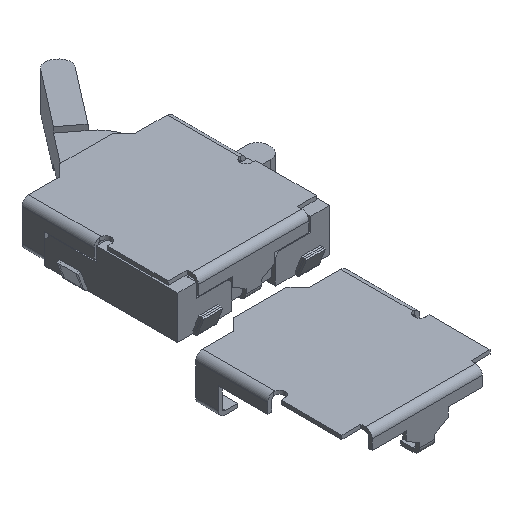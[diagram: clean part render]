
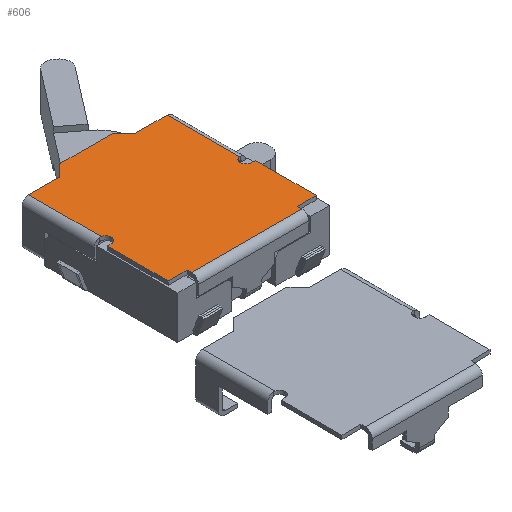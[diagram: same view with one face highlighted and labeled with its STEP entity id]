
A CAD part, isometric view. The second image highlights one B-rep face of the part: STEP entity #606.
In plain terms, the highlighted planar face has unit normal (0, 0, 1).
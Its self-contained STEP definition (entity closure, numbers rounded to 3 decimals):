
#606 = ADVANCED_FACE( '', ( #1187 ), #1188, .F. );
#1187 = FACE_OUTER_BOUND( '', #1771, .T. );
#1188 = PLANE( '', #1772 );
#1771 = EDGE_LOOP( '', ( #3397, #3398, #3399, #3400, #3401, #3402, #3403, #3404, #3405, #3406, #3407, #3408, #3409, #3410, #3411, #3412, #3413, #3414 ) );
#1772 = AXIS2_PLACEMENT_3D( '', #3415, #3416, #3417 );
#3397 = ORIENTED_EDGE( '', *, *, #3696, .F. );
#3398 = ORIENTED_EDGE( '', *, *, #3938, .T. );
#3399 = ORIENTED_EDGE( '', *, *, #3993, .F. );
#3400 = ORIENTED_EDGE( '', *, *, #4024, .F. );
#3401 = ORIENTED_EDGE( '', *, *, #3575, .F. );
#3402 = ORIENTED_EDGE( '', *, *, #4059, .T. );
#3403 = ORIENTED_EDGE( '', *, *, #3886, .T. );
#3404 = ORIENTED_EDGE( '', *, *, #3876, .F. );
#3405 = ORIENTED_EDGE( '', *, *, #3843, .T. );
#3406 = ORIENTED_EDGE( '', *, *, #3979, .T. );
#3407 = ORIENTED_EDGE( '', *, *, #4093, .T. );
#3408 = ORIENTED_EDGE( '', *, *, #3924, .F. );
#3409 = ORIENTED_EDGE( '', *, *, #4089, .F. );
#3410 = ORIENTED_EDGE( '', *, *, #4045, .T. );
#3411 = ORIENTED_EDGE( '', *, *, #4063, .T. );
#3412 = ORIENTED_EDGE( '', *, *, #3965, .T. );
#3413 = ORIENTED_EDGE( '', *, *, #3523, .F. );
#3414 = ORIENTED_EDGE( '', *, *, #3743, .F. );
#3415 = CARTESIAN_POINT( '', ( 5.1, -6.973, 0. ) );
#3416 = DIRECTION( '', ( 0., 0., -1. ) );
#3417 = DIRECTION( '', ( -1., 0., 0. ) );
#3523 = EDGE_CURVE( '', #4222, #4223, #4224, .T. );
#3575 = EDGE_CURVE( '', #4310, #4311, #4312, .T. );
#3696 = EDGE_CURVE( '', #4508, #4510, #4511, .T. );
#3743 = EDGE_CURVE( '', #4510, #4222, #4584, .T. );
#3843 = EDGE_CURVE( '', #4735, #4733, #4736, .T. );
#3876 = EDGE_CURVE( '', #4735, #4781, #4783, .F. );
#3886 = EDGE_CURVE( '', #4797, #4781, #4798, .T. );
#3924 = EDGE_CURVE( '', #4853, #4854, #4855, .T. );
#3938 = EDGE_CURVE( '', #4508, #4871, #4873, .F. );
#3965 = EDGE_CURVE( '', #4906, #4223, #4907, .T. );
#3979 = EDGE_CURVE( '', #4733, #4925, #4926, .T. );
#3993 = EDGE_CURVE( '', #4941, #4871, #4942, .T. );
#4024 = EDGE_CURVE( '', #4311, #4941, #4980, .T. );
#4045 = EDGE_CURVE( '', #5005, #5003, #5006, .F. );
#4059 = EDGE_CURVE( '', #4310, #4797, #5022, .T. );
#4063 = EDGE_CURVE( '', #5003, #4906, #5026, .T. );
#4089 = EDGE_CURVE( '', #5005, #4853, #5053, .T. );
#4093 = EDGE_CURVE( '', #4925, #4854, #5057, .T. );
#4222 = VERTEX_POINT( '', #5237 );
#4223 = VERTEX_POINT( '', #5238 );
#4224 = LINE( '', #5239, #5240 );
#4310 = VERTEX_POINT( '', #5362 );
#4311 = VERTEX_POINT( '', #5363 );
#4312 = LINE( '', #5364, #5365 );
#4508 = VERTEX_POINT( '', #5647 );
#4510 = VERTEX_POINT( '', #5652 );
#4511 = CIRCLE( '', #5653, 0.15 );
#4584 = LINE( '', #5761, #5762 );
#4733 = VERTEX_POINT( '', #5981 );
#4735 = VERTEX_POINT( '', #5984 );
#4736 = CIRCLE( '', #5985, 0.15 );
#4781 = VERTEX_POINT( '', #6052 );
#4783 = LINE( '', #6054, #6055 );
#4797 = VERTEX_POINT( '', #6076 );
#4798 = LINE( '', #6077, #6078 );
#4853 = VERTEX_POINT( '', #6157 );
#4854 = VERTEX_POINT( '', #6158 );
#4855 = LINE( '', #6159, #6160 );
#4871 = VERTEX_POINT( '', #6184 );
#4873 = LINE( '', #6186, #6187 );
#4906 = VERTEX_POINT( '', #6235 );
#4907 = LINE( '', #6236, #6237 );
#4925 = VERTEX_POINT( '', #6261 );
#4926 = LINE( '', #6262, #6263 );
#4941 = VERTEX_POINT( '', #6285 );
#4942 = LINE( '', #6286, #6287 );
#4980 = LINE( '', #6343, #6344 );
#5003 = VERTEX_POINT( '', #6377 );
#5005 = VERTEX_POINT( '', #6379 );
#5006 = LINE( '', #6380, #6381 );
#5022 = LINE( '', #6403, #6404 );
#5026 = LINE( '', #6408, #6409 );
#5053 = LINE( '', #6445, #6446 );
#5057 = LINE( '', #6450, #6451 );
#5237 = CARTESIAN_POINT( '', ( 1.95, -5.073, 0. ) );
#5238 = CARTESIAN_POINT( '', ( 1.95, -6.673, 0. ) );
#5239 = CARTESIAN_POINT( '', ( 1.95, -6.973, 0. ) );
#5240 = VECTOR( '', #6524, 1000. );
#5362 = CARTESIAN_POINT( '', ( -0.7, -2.573, 0. ) );
#5363 = CARTESIAN_POINT( '', ( 0.7, -2.573, 0. ) );
#5364 = CARTESIAN_POINT( '', ( 0., -2.573, 0. ) );
#5365 = VECTOR( '', #6573, 1000. );
#5647 = CARTESIAN_POINT( '', ( 1.82, -4.776, 0. ) );
#5652 = CARTESIAN_POINT( '', ( 1.85, -5.073, 0. ) );
#5653 = AXIS2_PLACEMENT_3D( '', #6690, #6691, #6692 );
#5761 = CARTESIAN_POINT( '', ( 1.85, -5.073, 0. ) );
#5762 = VECTOR( '', #6740, 1000. );
#5981 = CARTESIAN_POINT( '', ( -1.85, -5.073, 0. ) );
#5984 = CARTESIAN_POINT( '', ( -1.82, -4.776, 0. ) );
#5985 = AXIS2_PLACEMENT_3D( '', #6830, #6831, #6832 );
#6052 = CARTESIAN_POINT( '', ( -1.82, -2.873, 0. ) );
#6054 = CARTESIAN_POINT( '', ( -1.82, -6.973, 0. ) );
#6055 = VECTOR( '', #6861, 1000. );
#6076 = CARTESIAN_POINT( '', ( -1., -2.873, 0. ) );
#6077 = CARTESIAN_POINT( '', ( -1., -2.873, 0. ) );
#6078 = VECTOR( '', #6869, 1000. );
#6157 = CARTESIAN_POINT( '', ( -1.45, -6.673, 0. ) );
#6158 = CARTESIAN_POINT( '', ( -1.95, -6.673, 0. ) );
#6159 = CARTESIAN_POINT( '', ( -1.45, -6.673, 0. ) );
#6160 = VECTOR( '', #6906, 1000. );
#6184 = CARTESIAN_POINT( '', ( 1.82, -2.873, 0. ) );
#6186 = CARTESIAN_POINT( '', ( 1.82, -6.973, 0. ) );
#6187 = VECTOR( '', #6918, 1000. );
#6235 = CARTESIAN_POINT( '', ( 1.45, -6.673, 0. ) );
#6236 = CARTESIAN_POINT( '', ( 1.45, -6.673, 0. ) );
#6237 = VECTOR( '', #6940, 1000. );
#6261 = CARTESIAN_POINT( '', ( -1.95, -5.073, 0. ) );
#6262 = CARTESIAN_POINT( '', ( -1.85, -5.073, 0. ) );
#6263 = VECTOR( '', #6956, 1000. );
#6285 = CARTESIAN_POINT( '', ( 1., -2.873, 0. ) );
#6286 = CARTESIAN_POINT( '', ( 1., -2.873, 0. ) );
#6287 = VECTOR( '', #6964, 1000. );
#6343 = CARTESIAN_POINT( '', ( 0.7, -2.573, 0. ) );
#6344 = VECTOR( '', #6986, 1000. );
#6377 = CARTESIAN_POINT( '', ( 1.45, -6.793, 0. ) );
#6379 = CARTESIAN_POINT( '', ( -1.45, -6.793, 0. ) );
#6380 = CARTESIAN_POINT( '', ( 5.1, -6.793, 0. ) );
#6381 = VECTOR( '', #7003, 1000. );
#6403 = CARTESIAN_POINT( '', ( -0.7, -2.573, 0. ) );
#6404 = VECTOR( '', #7013, 1000. );
#6408 = CARTESIAN_POINT( '', ( 1.45, -6.973, 0. ) );
#6409 = VECTOR( '', #7014, 1000. );
#6445 = CARTESIAN_POINT( '', ( -1.45, -6.973, 0. ) );
#6446 = VECTOR( '', #7033, 1000. );
#6450 = CARTESIAN_POINT( '', ( -1.95, -6.973, 0. ) );
#6451 = VECTOR( '', #7034, 1000. );
#6524 = DIRECTION( '', ( 0., -1., 0. ) );
#6573 = DIRECTION( '', ( 1., 0., 0. ) );
#6690 = CARTESIAN_POINT( '', ( 1.85, -4.923, 0. ) );
#6691 = DIRECTION( '', ( 0., 0., 1. ) );
#6692 = DIRECTION( '', ( 0., 1., 0. ) );
#6740 = DIRECTION( '', ( 1., 0., 0. ) );
#6830 = CARTESIAN_POINT( '', ( -1.85, -4.923, 0. ) );
#6831 = DIRECTION( '', ( 0., 0., -1. ) );
#6832 = DIRECTION( '', ( 0., 1., 0. ) );
#6861 = DIRECTION( '', ( 0., -1., 0. ) );
#6869 = DIRECTION( '', ( -1., 0., 0. ) );
#6906 = DIRECTION( '', ( -1., 0., 0. ) );
#6918 = DIRECTION( '', ( 0., -1., 0. ) );
#6940 = DIRECTION( '', ( 1., 0., 0. ) );
#6956 = DIRECTION( '', ( -1., 0., 0. ) );
#6964 = DIRECTION( '', ( 1., 0., 0. ) );
#6986 = DIRECTION( '', ( 0.707, -0.707, 0. ) );
#7003 = DIRECTION( '', ( -1., 0., 0. ) );
#7013 = DIRECTION( '', ( -0.707, -0.707, 0. ) );
#7014 = DIRECTION( '', ( 0., 1., 0. ) );
#7033 = DIRECTION( '', ( 0., 1., 0. ) );
#7034 = DIRECTION( '', ( 0., -1., 0. ) );
